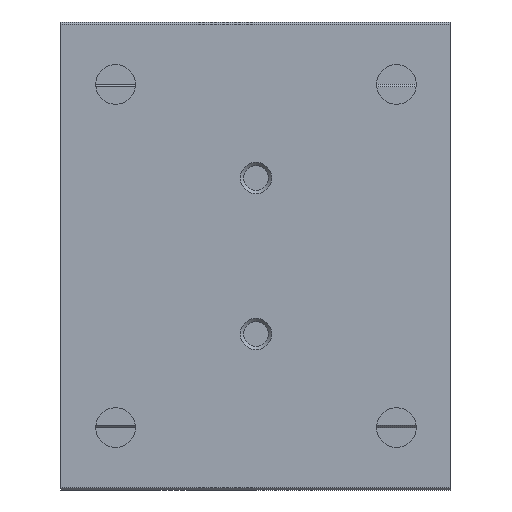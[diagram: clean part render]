
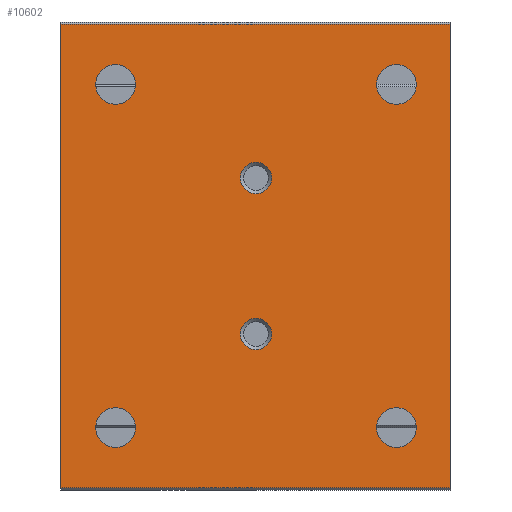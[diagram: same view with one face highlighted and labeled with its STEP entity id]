
A CAD part, front view. The second image highlights one B-rep face of the part: STEP entity #10602.
In plain terms, the highlighted planar face has unit normal (0, -1, 0).
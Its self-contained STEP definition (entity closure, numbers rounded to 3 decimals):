
#342=CIRCLE('',#11228,1.);
#343=CIRCLE('',#11229,1.);
#344=CIRCLE('',#11230,1.275);
#345=CIRCLE('',#11231,1.275);
#346=CIRCLE('',#11232,1.275);
#347=CIRCLE('',#11233,1.275);
#1042=ORIENTED_EDGE('',*,*,#4299,.F.);
#1043=ORIENTED_EDGE('',*,*,#4300,.F.);
#1044=ORIENTED_EDGE('',*,*,#4301,.T.);
#1045=ORIENTED_EDGE('',*,*,#4302,.F.);
#1046=ORIENTED_EDGE('',*,*,#4303,.F.);
#1047=ORIENTED_EDGE('',*,*,#4304,.F.);
#1048=ORIENTED_EDGE('',*,*,#4273,.T.);
#1049=ORIENTED_EDGE('',*,*,#4305,.F.);
#1050=ORIENTED_EDGE('',*,*,#4306,.F.);
#1051=ORIENTED_EDGE('',*,*,#4297,.T.);
#4273=EDGE_CURVE('',#5904,#5903,#6995,.T.);
#4297=EDGE_CURVE('',#5926,#5904,#7019,.T.);
#4299=EDGE_CURVE('',#5927,#5927,#342,.T.);
#4300=EDGE_CURVE('',#5928,#5928,#343,.T.);
#4301=EDGE_CURVE('',#5929,#5929,#344,.T.);
#4302=EDGE_CURVE('',#5930,#5930,#345,.T.);
#4303=EDGE_CURVE('',#5931,#5931,#346,.T.);
#4304=EDGE_CURVE('',#5932,#5932,#347,.T.);
#4305=EDGE_CURVE('',#5933,#5903,#7021,.T.);
#4306=EDGE_CURVE('',#5926,#5933,#7022,.T.);
#5903=VERTEX_POINT('',#16002);
#5904=VERTEX_POINT('',#16004);
#5926=VERTEX_POINT('',#16053);
#5927=VERTEX_POINT('',#16057);
#5928=VERTEX_POINT('',#16059);
#5929=VERTEX_POINT('',#16061);
#5930=VERTEX_POINT('',#16063);
#5931=VERTEX_POINT('',#16065);
#5932=VERTEX_POINT('',#16067);
#5933=VERTEX_POINT('',#16069);
#6995=LINE('',#16003,#8009);
#7019=LINE('',#16052,#8033);
#7021=LINE('',#16068,#8035);
#7022=LINE('',#16070,#8036);
#8009=VECTOR('',#12506,1000.);
#8033=VECTOR('',#12536,1000.);
#8035=VECTOR('',#12552,1000.);
#8036=VECTOR('',#12553,1000.);
#8979=EDGE_LOOP('',(#1042));
#8980=EDGE_LOOP('',(#1043));
#8981=EDGE_LOOP('',(#1044));
#8982=EDGE_LOOP('',(#1045));
#8983=EDGE_LOOP('',(#1046));
#8984=EDGE_LOOP('',(#1047));
#8985=EDGE_LOOP('',(#1048,#1049,#1050,#1051));
#9647=FACE_BOUND('',#8979,.T.);
#9648=FACE_BOUND('',#8980,.T.);
#9649=FACE_BOUND('',#8981,.T.);
#9650=FACE_BOUND('',#8982,.T.);
#9651=FACE_BOUND('',#8983,.T.);
#9652=FACE_BOUND('',#8984,.T.);
#9653=FACE_BOUND('',#8985,.T.);
#10315=PLANE('',#11227);
#10602=ADVANCED_FACE('',(#9647,#9648,#9649,#9650,#9651,#9652,#9653),#10315,
 .F.);
#11227=AXIS2_PLACEMENT_3D('',#16055,#12538,#12539);
#11228=AXIS2_PLACEMENT_3D('',#16056,#12540,#12541);
#11229=AXIS2_PLACEMENT_3D('',#16058,#12542,#12543);
#11230=AXIS2_PLACEMENT_3D('',#16060,#12544,#12545);
#11231=AXIS2_PLACEMENT_3D('',#16062,#12546,#12547);
#11232=AXIS2_PLACEMENT_3D('',#16064,#12548,#12549);
#11233=AXIS2_PLACEMENT_3D('',#16066,#12550,#12551);
#12506=DIRECTION('',(0.,0.,-1.));
#12536=DIRECTION('',(-1.,0.,0.));
#12538=DIRECTION('',(0.,1.,0.));
#12539=DIRECTION('',(0.,0.,1.));
#12540=DIRECTION('',(0.,-1.,0.));
#12541=DIRECTION('',(0.,0.,-1.));
#12542=DIRECTION('',(0.,-1.,0.));
#12543=DIRECTION('',(0.,0.,-1.));
#12544=DIRECTION('',(0.,1.,0.));
#12545=DIRECTION('',(0.,0.,1.));
#12546=DIRECTION('',(0.,-1.,0.));
#12547=DIRECTION('',(0.,0.,-1.));
#12548=DIRECTION('',(0.,-1.,0.));
#12549=DIRECTION('',(0.,0.,-1.));
#12550=DIRECTION('',(0.,-1.,0.));
#12551=DIRECTION('',(0.,0.,-1.));
#12552=DIRECTION('',(-1.,0.,0.));
#12553=DIRECTION('',(0.,0.,-1.));
#16002=CARTESIAN_POINT('',(0.,0.,-14.85));
#16003=CARTESIAN_POINT('',(0.,0.,14.85));
#16004=CARTESIAN_POINT('',(0.,0.,14.85));
#16052=CARTESIAN_POINT('',(25.,0.,14.85));
#16053=CARTESIAN_POINT('',(25.,0.,14.85));
#16055=CARTESIAN_POINT('',(25.,0.,14.85));
#16056=CARTESIAN_POINT('',(12.5,0.,-5.));
#16057=CARTESIAN_POINT('',(12.5,0.,-6.));
#16058=CARTESIAN_POINT('',(12.5,0.,5.));
#16059=CARTESIAN_POINT('',(12.5,0.,4.));
#16060=CARTESIAN_POINT('',(21.5,0.,11.));
#16061=CARTESIAN_POINT('',(21.5,0.,12.275));
#16062=CARTESIAN_POINT('',(21.5,0.,-11.));
#16063=CARTESIAN_POINT('',(21.5,0.,-12.275));
#16064=CARTESIAN_POINT('',(3.5,0.,-11.));
#16065=CARTESIAN_POINT('',(3.5,0.,-12.275));
#16066=CARTESIAN_POINT('',(3.5,0.,11.));
#16067=CARTESIAN_POINT('',(3.5,0.,9.725));
#16068=CARTESIAN_POINT('',(25.,0.,-14.85));
#16069=CARTESIAN_POINT('',(25.,0.,-14.85));
#16070=CARTESIAN_POINT('',(25.,0.,14.85));
